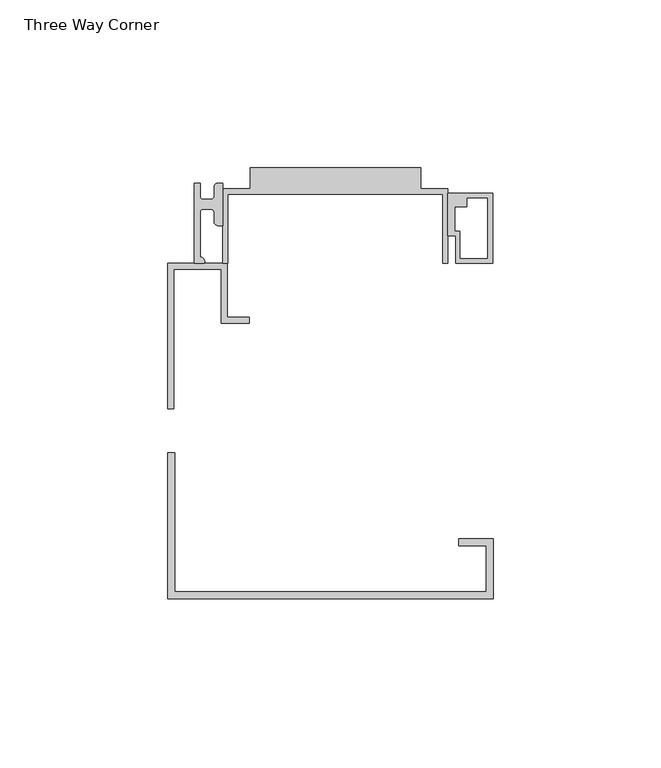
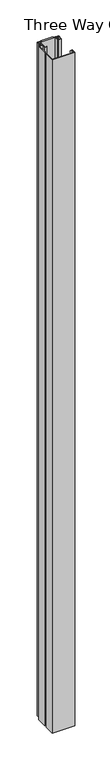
"""IFC4 building model written with IfcOpenShell, lengths in millimetres: proxy geometry, Connection-Corner-Teknion-OptosLP-Three_Way_FZCD3E : Three Way Corner."""

from ifc_helpers import new_model, si_unit, frame, origin, origin_with_axes, place, context, project, spatial, polyline, circle_curve, outline, extrude, faceted_brep, source, transform, mapped, element, save
from ifc_brep_helpers import plane_surface, cylinder_surface, revolved_surface, advanced_brep


def three_way_corner_51c922a8(model_context):
    return source(origin(), model_context, "Body", "SolidModel", [
        advanced_brep(
        [(-40.6385995, 50.3892045, 3048.0), (-37.5696261, 50.3892045, 3048.0), (-38.861159, 52.1607816, 3048.0), (-38.861159, 65.6293139, 3048.0), (-38.0994929, 66.39098, 3048.0), (-35.413134, 66.39098, 3048.0), (-34.6696007, 65.6292038, 3048.0), (-34.6696004, 62.8352038, 3048.0), (-33.3995987, 61.5652021, 3048.0), (-32.0509478, 61.5652021, 3048.0), (-32.0509478, 74.2652047, 3048.0), (-33.3995996, 74.2652047, 3048.0), (-34.6696006, 72.9952038, 3048.0), (-34.6696006, 70.2012038, 3048.0), (-35.4316006, 69.4392037, 3048.0), (-38.0986006, 69.4392029, 3048.0), (-38.8606005, 70.2012038, 3048.0), (-38.8606005, 74.2652047, 3048.0), (-40.6385995, 74.2652047, 3048.0), (-40.6385995, 50.3892045, 0.0), (-40.6385995, 74.2652047, 0.0), (-38.8606005, 74.2652047, 0.0), (-38.8606005, 70.2012038, 0.0), (-38.0986006, 69.4392039, 0.0), (-35.4316006, 69.4392029, 0.0), (-34.6696006, 70.2012038, 0.0), (-34.6696006, 72.9952038, 0.0), (-33.3995996, 74.2652047, 0.0), (-32.0509478, 74.2652047, 0.0), (-32.0509478, 61.5652021, 0.0), (-33.3995987, 61.5652021, 0.0), (-34.6696004, 62.8352038, 0.0), (-34.6696004, 65.6292038, 0.0), (-35.413134, 66.39098, 0.0), (-38.0994929, 66.39098, 0.0), (-38.861159, 65.6293139, 0.0), (-38.861159, 52.1607816, 0.0), (-37.5696261, 50.3892045, 0.0)],
        [
            (0, 1),
            (1, 2, circle_curve(frame((-38.7336007, 50.8972038, 3048.0), z_axis=(0.0, 0.0, 1.0), x_axis=(0.0, -1.0, 0.0)), 1.27)),
            (2, 3),
            (3, 4, circle_curve(frame((-38.0994929, 65.6293139, 3048.0), z_axis=(0.0, 0.0, -1.0), x_axis=(0.0, -1.0, 0.0)), 0.7616661)),
            (4, 5),
            (5, 6, circle_curve(frame((-35.4316007, 65.6292038, 3048.0), z_axis=(0.0, 0.0, -1.0), x_axis=(0.0, -1.0, 0.0)), 0.762)),
            (6, 7),
            (7, 8, circle_curve(frame((-33.3995987, 62.8352038, 3048.0), z_axis=(0.0, 0.0, 1.0), x_axis=(0.0, -1.0, 0.0)), 1.2700017)),
            (8, 9),
            (9, 10),
            (10, 11),
            (11, 12, circle_curve(frame((-33.3995996, 72.9952038, 3048.0), z_axis=(0.0, 0.0, 1.0), x_axis=(0.0, -1.0, 0.0)), 1.2700009)),
            (12, 13),
            (13, 14, circle_curve(frame((-35.4316006, 70.2012038, 3048.0), z_axis=(0.0, 0.0, -1.0), x_axis=(0.0, -1.0, 0.0)), 0.7620001)),
            (14, 15),
            (15, 16, circle_curve(frame((-38.0986006, 70.2012038, 3048.0), z_axis=(0.0, 0.0, -1.0), x_axis=(0.0, -1.0, 0.0)), 0.7619999)),
            (16, 17),
            (17, 18),
            (18, 0),
            (19, 20),
            (20, 21),
            (21, 22),
            (22, 23, circle_curve(frame((-38.0986006, 70.2012038, 0.0), z_axis=(0.0, 0.0, 1.0), x_axis=(0.0, -1.0, 0.0)), 0.7619999)),
            (23, 24),
            (24, 25, circle_curve(frame((-35.4316006, 70.2012038, 0.0), z_axis=(0.0, 0.0, 1.0), x_axis=(0.0, -1.0, 0.0)), 0.7620001)),
            (25, 26),
            (26, 27, circle_curve(frame((-33.3995996, 72.9952038, 0.0), z_axis=(0.0, 0.0, -1.0), x_axis=(0.0, -1.0, 0.0)), 1.2700009)),
            (27, 28),
            (28, 29),
            (29, 30),
            (30, 31, circle_curve(frame((-33.3995987, 62.8352038, 0.0), z_axis=(0.0, 0.0, -1.0), x_axis=(0.0, -1.0, 0.0)), 1.2700017)),
            (31, 32),
            (32, 33, circle_curve(frame((-35.4316007, 65.6292038, 0.0), z_axis=(0.0, 0.0, 1.0), x_axis=(0.0, -1.0, 0.0)), 0.762)),
            (33, 34),
            (34, 35, circle_curve(frame((-38.0994929, 65.6293139, 0.0), z_axis=(0.0, 0.0, 1.0), x_axis=(0.0, -1.0, 0.0)), 0.7616661)),
            (35, 36),
            (36, 37, circle_curve(frame((-38.7336007, 50.8972038, 0.0), z_axis=(0.0, 0.0, -1.0), x_axis=(0.0, -1.0, 0.0)), 1.27)),
            (37, 19),
            (0, 19),
            (37, 1),
            (36, 2),
            (35, 3),
            (34, 4),
            (33, 5),
            (32, 6),
            (31, 7),
            (30, 8),
            (29, 9),
            (28, 10),
            (27, 11),
            (26, 12),
            (25, 13),
            (24, 14),
            (23, 15),
            (22, 16),
            (21, 17),
            (20, 18),
        ],
        [
            plane_surface(frame((0.0, 0.0, 3048.0), z_axis=(0.0, 0.0, 1.0), x_axis=(0.0, -1.0, 0.0))),
            plane_surface(frame((0.0, 0.0, 0.0), z_axis=(0.0, 0.0, -1.0), x_axis=(0.0, -1.0, 0.0))),
            plane_surface(frame((-40.6385995, 50.3892045, 3048.0), z_axis=(0.0, -1.0, 0.0), x_axis=(0.0, 0.0, -1.0))),
            cylinder_surface(frame((-38.7336007, 50.8972038, 3048.0), z_axis=(0.0, 0.0, 1.0), x_axis=(0.0, -1.0, 0.0)), 1.27),
            plane_surface(frame((-38.861159, 52.1607816, 3048.0), z_axis=(1.0, 0.0, 0.0), x_axis=(0.0, 0.0, -1.0))),
            revolved_surface(polyline([(-38.0994929, 64.8676478, 0.0), (-38.0994929, 64.8676478, 3048.0)]), (-38.0994929, 65.6293139, 3048.0), (0.0, 0.0, -1.0)),
            plane_surface(frame((-38.0994929, 66.39098, 3048.0), z_axis=(0.0, -1.0, 0.0), x_axis=(0.0, 0.0, -1.0))),
            revolved_surface(polyline([(-35.4316007, 64.8672038, 0.0), (-35.4316007, 64.8672038, 3048.0)]), (-35.4316007, 65.6292038, 3048.0), (0.0, 0.0, -1.0)),
            plane_surface(frame((-34.6696004, 65.6292038, 3048.0), z_axis=(-1.0, 0.0, 0.0), x_axis=(0.0, 0.0, -1.0))),
            cylinder_surface(frame((-33.3995987, 62.8352038, 3048.0), z_axis=(0.0, 0.0, 1.0), x_axis=(0.0, -1.0, 0.0)), 1.2700017),
            plane_surface(frame((-33.3995987, 61.5652021, 3048.0), z_axis=(0.0, -1.0, 0.0), x_axis=(0.0, 0.0, -1.0))),
            plane_surface(frame((-32.0509478, 61.5652021, 3048.0), z_axis=(1.0, 0.0, 0.0), x_axis=(0.0, 0.0, -1.0))),
            plane_surface(frame((-32.0509478, 74.2652047, 3048.0), z_axis=(0.0, 1.0, 0.0), x_axis=(0.0, 0.0, -1.0))),
            cylinder_surface(frame((-33.3995996, 72.9952038, 3048.0), z_axis=(0.0, 0.0, 1.0), x_axis=(0.0, -1.0, 0.0)), 1.2700009),
            plane_surface(frame((-34.6696006, 72.9952038, 3048.0), z_axis=(-1.0, 0.0, 0.0), x_axis=(0.0, 0.0, -1.0))),
            revolved_surface(polyline([(-35.4316006, 69.43920370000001, 0.0), (-35.4316006, 69.43920370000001, 3048.0)]), (-35.4316006, 70.2012038, 3048.0), (0.0, 0.0, -1.0)),
            plane_surface(frame((-35.4316006, 69.4392029, 3048.0), z_axis=(0.0, 1.0, 0.0), x_axis=(0.0, 0.0, -1.0))),
            revolved_surface(polyline([(-38.0986006, 69.4392039, 0.0), (-38.0986006, 69.4392039, 3048.0)]), (-38.0986006, 70.2012038, 3048.0), (0.0, 0.0, -1.0)),
            plane_surface(frame((-38.8606005, 70.2012038, 3048.0), z_axis=(1.0, 0.0, 0.0), x_axis=(0.0, 0.0, -1.0))),
            plane_surface(frame((-38.8606005, 74.2652047, 3048.0), z_axis=(0.0, 1.0, 0.0), x_axis=(0.0, 0.0, -1.0))),
            plane_surface(frame((-40.6385995, 74.2652047, 3048.0), z_axis=(-1.0, 0.0, 0.0), x_axis=(0.0, 0.0, -1.0))),
        ],
        [
            (0, [[1, 2, 3, 4, 5, 6, 7, 8, 9, 10, 11, 12, 13, 14, 15, 16, 17, 18, 19]]),
            (1, [[20, 21, 22, 23, 24, 25, 26, 27, 28, 29, 30, 31, 32, 33, 34, 35, 36, 37, 38]]),
            (2, [[-1, 39, -38, 40]]),
            (3, [[-2, -40, -37, 41]]),
            (4, [[-3, -41, -36, 42]]),
            (5, [[-4, -42, -35, 43]]),
            (6, [[-5, -43, -34, 44]]),
            (7, [[-6, -44, -33, 45]]),
            (8, [[-7, -45, -32, 46]]),
            (9, [[-8, -46, -31, 47]]),
            (10, [[-9, -47, -30, 48]]),
            (11, [[-10, -48, -29, 49]]),
            (12, [[-11, -49, -28, 50]]),
            (13, [[-12, -50, -27, 51]]),
            (14, [[-13, -51, -26, 52]]),
            (15, [[-14, -52, -25, 53]]),
            (16, [[-15, -53, -24, 54]]),
            (17, [[-16, -54, -23, 55]]),
            (18, [[-17, -55, -22, 56]]),
            (19, [[-18, -56, -21, 57]]),
            (20, [[-19, -57, -20, -39]]),
        ],
    ),
        faceted_brep([(35.0279994, 71.2680001, 3048.0), (35.0279994, 58.5680049, 3048.0), (37.4155976, 58.5680049, 3048.0), (37.4155976, 50.3892045, 3048.0), (48.439201, 50.3892045, 3048.0), (48.439201, 71.2680001, 3048.0), (46.7129134, 69.6595002, 3048.0), (46.7129134, 51.8287, 3048.0), (38.7373127, 51.8287, 3048.0), (38.7373127, 60.0075003, 3048.0), (37.2133113, 60.0075003, 3048.0), (37.2133113, 67.1195005, 3048.0), (40.7693133, 67.1195005, 3048.0), (40.7693133, 69.6595002, 3048.0), (35.0279994, 71.2680001, 0.0), (48.439201, 71.2680001, 0.0), (48.439201, 50.3892045, 0.0), (37.4155976, 50.3892045, 0.0), (37.4155976, 58.5680049, 0.0), (35.0279994, 58.5680049, 0.0), (46.7129134, 69.6595002, 0.0), (40.7693133, 69.6595002, 0.0), (40.7693133, 67.1195005, 0.0), (37.2133113, 67.1195005, 0.0), (37.2133113, 60.0075003, 0.0), (38.7373127, 60.0075003, 0.0), (38.7373127, 51.8287, 0.0), (46.7129134, 51.8287, 0.0)], [[[0, 1, 2, 3, 4, 5], [6, 7, 8, 9, 10, 11, 12, 13]], [[14, 15, 16, 17, 18, 19], [20, 21, 22, 23, 24, 25, 26, 27]], [[1, 0, 14, 19]], [[2, 1, 19, 18]], [[3, 2, 18, 17]], [[4, 3, 17, 16]], [[5, 4, 16, 15]], [[0, 5, 15, 14]], [[7, 6, 20, 27]], [[8, 7, 27, 26]], [[9, 8, 26, 25]], [[10, 9, 25, 24]], [[11, 10, 24, 23]], [[12, 11, 23, 22]], [[13, 12, 22, 21]], [[6, 13, 21, 20]]]),
        extrude(outline(polyline([(-30.5269465, 50.3892045), (-32.0509478, 50.3892045), (-32.0509478, 72.4872036), (-23.9229474, 72.4872036), (-23.9229474, 78.8372068), (26.877052, 78.8372068), (26.877052, 72.4872036), (35.0279994, 72.4872036), (35.0279994, 50.3892045), (33.5039981, 50.3892045), (33.5039981, 70.9632023), (-30.5269465, 70.9632023), (-30.5269465, 50.3892045)])), origin_with_axes(), (0.0, 0.0, 1.0), 3048.0),
        extrude(outline(polyline([(-48.5000014, 50.3892045), (-30.7199992, 50.3892045), (-30.7199992, 34.2602026), (-24.1160002, 34.2602026), (-24.1160002, 32.4822034), (-32.4980021, 32.4822034), (-32.4980021, 48.6112054), (-46.7220023, 48.6112054), (-46.7220023, 6.955204), (-48.5000014, 6.955204), (-48.5000014, 50.3892045)])), origin_with_axes(), (0.0, 0.0, 1.0), 3048.0),
        extrude(outline(polyline([(48.4999977, -31.8307948), (48.4999977, -49.610797), (-48.5000014, -49.610797), (-48.5000014, -6.1767964), (-46.4680009, -6.1767964), (-46.4680009, -47.5787964), (46.4680009, -47.5787964), (46.4680009, -33.8627953), (38.3399986, -33.8627953), (38.3399986, -31.8307948), (48.4999977, -31.8307948)])), origin_with_axes(), (0.0, 0.0, 1.0), 3048.0),
    ])


if __name__ == "__main__":
    model = new_model("IFC4")
    model_context = context("Model", 3, world=origin())
    ifc_project = project(units=[si_unit("LENGTHUNIT", "METRE", prefix="MILLI")], contexts=[model_context])
    site = spatial("IfcSite", under=ifc_project)
    building = spatial("IfcBuilding", under=site)
    placement = place(None, origin())
    three_way_corner_shape = three_way_corner_51c922a8(model_context)
    element("IfcBuildingElementProxy", 1, Name="Connection-Corner-Teknion-OptosLP-Three_Way_FZCD3E : Three Way Corner", ObjectType="Connection-Corner-Teknion-OptosLP-Three_Way_FZCD3E : Three Way Corner", at=placement, inside=building, context=model_context, shape_type="MappedRepresentation", body=[
        mapped(three_way_corner_shape, transform((0.0, 0.0, 0.0), x_axis=(1.0, 0.0, 0.0), y_axis=(0.0, 1.0, 0.0), z_axis=(0.0, 0.0, 1.0))),
    ])
    save(model, "model.ifc")
